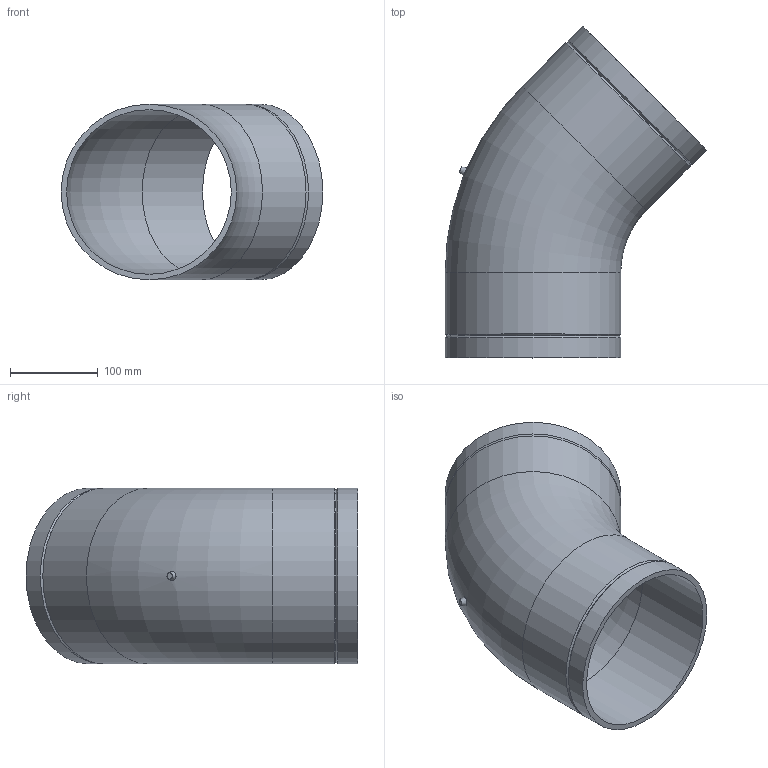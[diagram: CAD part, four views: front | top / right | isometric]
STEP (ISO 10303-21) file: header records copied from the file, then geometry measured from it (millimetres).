
FILE_DESCRIPTION(/* description */ (''),/* implementation_level */ '2;1');
FILE_NAME(/* name */ 'Z:\Geberit\Export\NewStep\PE Bogen Einzelteil_Ipart\stp\370045.stp',/* time_stamp */ '2014-04-02T11:55:25+02:00',/* author */ ('bruh'),/* organization */ (''),/* preprocessor_version */ 'ST-DEVELOPER v15.2',/* originating_system */ 'Autodesk Inventor 2014',/* authorisation */ '');
FILE_SCHEMA (('AUTOMOTIVE_DESIGN { 1 0 10303 214 3 1 1 }'));
Length unit declared in the file: millimetre
Products named in the file (1): 370045
Bounding box: 297.99 x 377.99 x 200 mm (x, y, z)
Volume: 1321810.9 mm3; surface area: 437573.4 mm2
Topology: 1 solids, 1 shells, 16 faces, 34 edges, 20 vertices
Faces by surface type: cylinder 6, cone 5, plane 3, torus 2
Full cylindrical faces by diameter (mm): 187.6 x2, 200 x4
Entity records: 403 total; most frequent: CARTESIAN_POINT 90, DIRECTION 64, EDGE_LOOP 32, ORIENTED_EDGE 32, AXIS2_PLACEMENT_3D 32, FACE_BOUND 18, STYLED_ITEM 17, VERTEX_POINT 16
